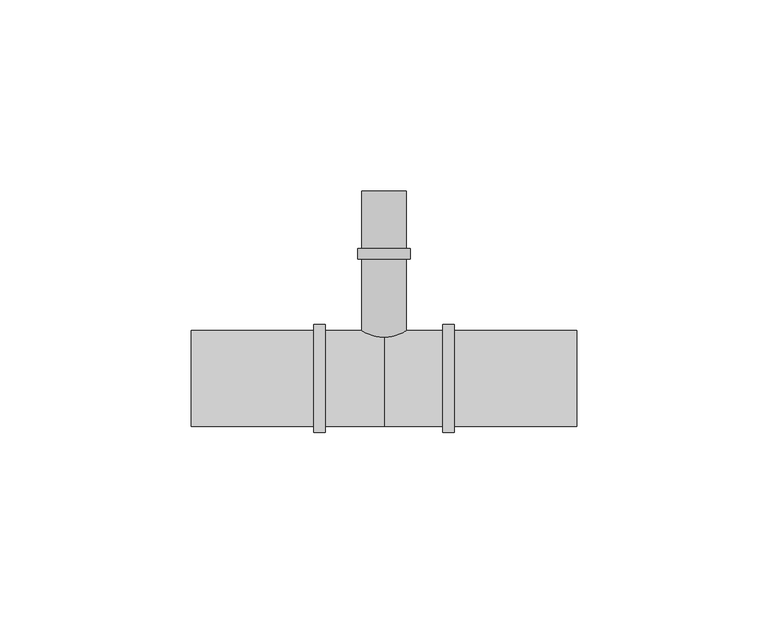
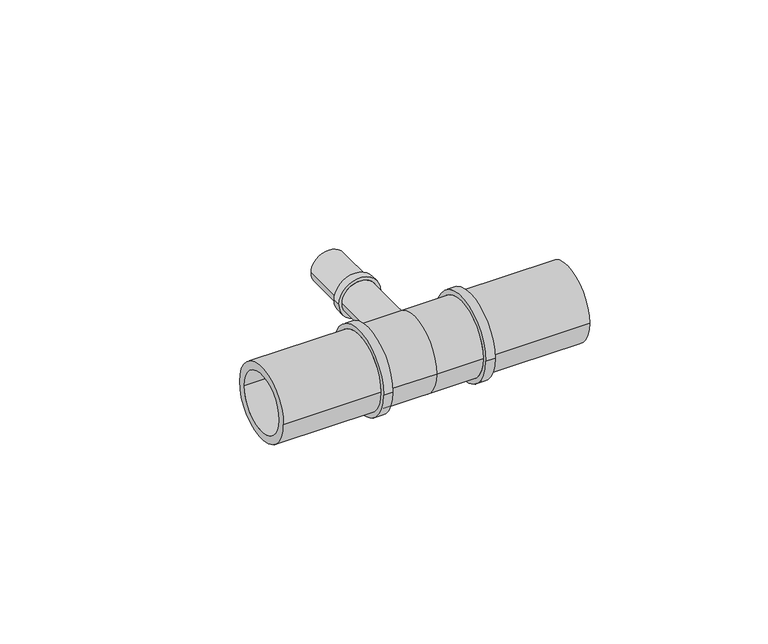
"""IFC4 building model written with IfcOpenShell, lengths in millimetres: pipe fitting geometry, FASTLOC_T-piece_LX : FSL T-Piece LX PL."""

from ifc_helpers import new_model, si_unit, frame, origin, place, context, project, spatial, polyline, circle_curve, source, transform, mapped, element, save
from ifc_brep_helpers import plane_surface, cylinder_surface, revolved_surface, advanced_brep


def pipe_fitting_963efab6(model_context):
    return source(origin(), model_context, "Body", "AdvancedBrep", [
        advanced_brep(
        [(3.95, 48.9, 0.0), (-3.95, 48.9, 0.0), (-3.95, 0.0, 0.0), (3.95, 0.0, 0.0), (5.8, 0.0, 0.0), (-5.8, 0.0, 0.0), (-5.8, 31.19, 0.0), (5.8, 31.19, 0.0), (6.9, 31.19, 0.0), (-6.9, 31.19, 0.0), (-6.9, 33.9, 0.0), (6.9, 33.9, 0.0), (5.8, 33.9, 0.0), (-5.8, 33.9, 0.0), (-5.8, 48.9, 0.0), (5.8, 48.9, 0.0)],
        [
            (0, 1, circle_curve(frame((0.0, 48.9, 0.0), z_axis=(0.0, 1.0, 0.0), x_axis=(-1.0, 0.0, 0.0)), 3.95)),
            (1, 2),
            (2, 3, circle_curve(frame((0.0, 0.0, 0.0), z_axis=(0.0, -1.0, 0.0), x_axis=(-1.0, 0.0, 0.0)), 3.95)),
            (3, 0),
            (4, 5, circle_curve(frame((0.0, 0.0, 0.0), z_axis=(0.0, 1.0, 0.0), x_axis=(-1.0, 0.0, 0.0)), 5.8)),
            (5, 6),
            (6, 7, circle_curve(frame((0.0, 31.19, 0.0), z_axis=(0.0, -1.0, 0.0), x_axis=(-1.0, 0.0, 0.0)), 5.8)),
            (7, 4),
            (8, 9, circle_curve(frame((0.0, 31.19, 0.0), z_axis=(0.0, 1.0, 0.0), x_axis=(-1.0, 0.0, 0.0)), 6.9)),
            (9, 10),
            (10, 11, circle_curve(frame((0.0, 33.9, 0.0), z_axis=(0.0, -1.0, 0.0), x_axis=(-1.0, 0.0, 0.0)), 6.9)),
            (11, 8),
            (12, 13, circle_curve(frame((0.0, 33.9, 0.0), z_axis=(0.0, 1.0, 0.0), x_axis=(-1.0, 0.0, 0.0)), 5.8)),
            (13, 14),
            (14, 15, circle_curve(frame((0.0, 48.9, 0.0), z_axis=(0.0, -1.0, 0.0), x_axis=(-1.0, 0.0, 0.0)), 5.8)),
            (15, 12),
            (1, 0, circle_curve(frame((0.0, 48.9, 0.0), z_axis=(0.0, 1.0, 0.0), x_axis=(1.0, 0.0, 0.0)), 3.95)),
            (3, 2, circle_curve(frame((0.0, 0.0, 0.0), z_axis=(0.0, -1.0, 0.0), x_axis=(1.0, 0.0, 0.0)), 3.95)),
            (4, 5, circle_curve(frame((0.0, 0.0, 0.0), z_axis=(0.0, -1.0, 0.0), x_axis=(1.0, 0.0, 0.0)), 5.8)),
            (7, 6, circle_curve(frame((0.0, 31.19, 0.0), z_axis=(0.0, -1.0, 0.0), x_axis=(1.0, 0.0, 0.0)), 5.8)),
            (8, 9, circle_curve(frame((0.0, 31.19, 0.0), z_axis=(0.0, -1.0, 0.0), x_axis=(1.0, 0.0, 0.0)), 6.9)),
            (11, 10, circle_curve(frame((0.0, 33.9, 0.0), z_axis=(0.0, -1.0, 0.0), x_axis=(1.0, 0.0, 0.0)), 6.9)),
            (12, 13, circle_curve(frame((0.0, 33.9, 0.0), z_axis=(0.0, -1.0, 0.0), x_axis=(1.0, 0.0, 0.0)), 5.8)),
            (15, 14, circle_curve(frame((0.0, 48.9, 0.0), z_axis=(0.0, -1.0, 0.0), x_axis=(1.0, 0.0, 0.0)), 5.8)),
        ],
        [
            revolved_surface(polyline([(-3.95, 0.0, 0.0), (-3.95, 48.9, 0.0)]), (0.0, 0.0, 0.0), (0.0, -1.0, 0.0)),
            cylinder_surface(frame((0.0, 0.0, 0.0), z_axis=(0.0, -1.0, 0.0), x_axis=(-1.0, 0.0, 0.0)), 5.8),
            cylinder_surface(frame((0.0, 0.0, 0.0), z_axis=(0.0, -1.0, 0.0), x_axis=(-1.0, 0.0, 0.0)), 6.9),
            revolved_surface(polyline([(3.95, 0.0, 0.0), (3.95, 48.9, 0.0)]), (0.0, 0.0, 0.0), (0.0, -1.0, 0.0)),
            plane_surface(frame((0.0, 0.0, 0.0), z_axis=(0.0, -1.0, 0.0), x_axis=(1.0, 0.0, 0.0))),
            cylinder_surface(frame((0.0, 0.0, 0.0), z_axis=(0.0, -1.0, 0.0), x_axis=(1.0, 0.0, 0.0)), 5.8),
            plane_surface(frame((0.0, 31.19, 0.0), z_axis=(0.0, -1.0, 0.0), x_axis=(1.0, 0.0, 0.0))),
            cylinder_surface(frame((0.0, 0.0, 0.0), z_axis=(0.0, -1.0, 0.0), x_axis=(1.0, 0.0, 0.0)), 6.9),
            plane_surface(frame((0.0, 33.9, 0.0), z_axis=(0.0, 1.0, 0.0), x_axis=(1.0, 0.0, 0.0))),
            plane_surface(frame((0.0, 48.9, 0.0), z_axis=(0.0, 1.0, 0.0), x_axis=(1.0, 0.0, 0.0))),
        ],
        [
            (0, [[1, 2, 3, 4]]),
            (1, [[5, 6, 7, 8]]),
            (2, [[9, 10, 11, 12]]),
            (1, [[13, 14, 15, 16]]),
            (3, [[17, -4, 18, -2]]),
            (4, [[19, -5], [-18, -3]]),
            (5, [[-19, -8, 20, -6]]),
            (6, [[21, -9], [-20, -7]]),
            (7, [[-21, -12, 22, -10]]),
            (8, [[-22, -11], [23, -13]]),
            (5, [[-23, -16, 24, -14]]),
            (9, [[-24, -15], [-17, -1]]),
        ],
    ),
        advanced_brep(
        [(0.0, 12.5, 0.0), (0.0, -12.5, 0.0), (-15.3, -12.5, 0.0), (-15.3, 12.5, 0.0), (15.3, 12.5, 0.0), (15.3, -12.5, 0.0), (18.3, 14.1, 0.0), (18.3, -14.1, 0.0), (15.3, -14.1, 0.0), (15.3, 14.1, 0.0), (50.3, 12.5, 0.0), (50.3, -12.5, 0.0), (18.3, -12.5, 0.0), (18.3, 12.5, 0.0), (-18.3, 12.5, 0.0), (-18.3, -12.5, 0.0), (-50.3, -12.5, 0.0), (-50.3, 12.5, 0.0), (-15.3, 14.1, 0.0), (-15.3, -14.1, 0.0), (-18.3, -14.1, 0.0), (-18.3, 14.1, 0.0), (50.3, -9.85, 0.0), (50.3, 9.85, 0.0), (-50.3, 9.85, 0.0), (-50.3, -9.85, 0.0), (0.0, 9.85, 0.0), (0.0, -9.85, 0.0)],
        [
            (0, 1, circle_curve(frame((0.0, 0.0, 0.0), z_axis=(-1.0, 0.0, 0.0), x_axis=(0.0, -1.0, 0.0)), 12.5)),
            (1, 2),
            (2, 3, circle_curve(frame((-15.3, 0.0, 0.0), z_axis=(1.0, 0.0, 0.0), x_axis=(0.0, -1.0, 0.0)), 12.5)),
            (3, 0),
            (4, 5, circle_curve(frame((15.3, 0.0, 0.0), z_axis=(-1.0, 0.0, 0.0), x_axis=(0.0, -1.0, 0.0)), 12.5)),
            (5, 1),
            (0, 4),
            (6, 7, circle_curve(frame((18.3, 0.0, 0.0), z_axis=(-1.0, 0.0, 0.0), x_axis=(0.0, -1.0, 0.0)), 14.1)),
            (7, 8),
            (8, 9, circle_curve(frame((15.3, 0.0, 0.0), z_axis=(1.0, 0.0, 0.0), x_axis=(0.0, -1.0, 0.0)), 14.1)),
            (9, 6),
            (10, 11, circle_curve(frame((50.3, 0.0, 0.0), z_axis=(-1.0, 0.0, 0.0), x_axis=(0.0, -1.0, 0.0)), 12.5)),
            (11, 12),
            (12, 13, circle_curve(frame((18.3, 0.0, 0.0), z_axis=(1.0, 0.0, 0.0), x_axis=(0.0, -1.0, 0.0)), 12.5)),
            (13, 10),
            (14, 15, circle_curve(frame((-18.3, 0.0, 0.0), z_axis=(-1.0, 0.0, 0.0), x_axis=(0.0, -1.0, 0.0)), 12.5)),
            (15, 16),
            (16, 17, circle_curve(frame((-50.3, 0.0, 0.0), z_axis=(1.0, 0.0, 0.0), x_axis=(0.0, -1.0, 0.0)), 12.5)),
            (17, 14),
            (18, 19, circle_curve(frame((-15.3, 0.0, 0.0), z_axis=(-1.0, 0.0, 0.0), x_axis=(0.0, -1.0, 0.0)), 14.1)),
            (19, 20),
            (20, 21, circle_curve(frame((-18.3, 0.0, 0.0), z_axis=(1.0, 0.0, 0.0), x_axis=(0.0, -1.0, 0.0)), 14.1)),
            (21, 18),
            (18, 19, circle_curve(frame((-15.3, 0.0, 0.0), z_axis=(1.0, 0.0, 0.0), x_axis=(0.0, 1.0, 0.0)), 14.1)),
            (2, 3, circle_curve(frame((-15.3, 0.0, 0.0), z_axis=(-1.0, 0.0, 0.0), x_axis=(0.0, 1.0, 0.0)), 12.5)),
            (1, 0, circle_curve(frame((0.0, 0.0, 0.0), z_axis=(-1.0, 0.0, 0.0), x_axis=(0.0, 1.0, 0.0)), 12.5)),
            (5, 4, circle_curve(frame((15.3, 0.0, 0.0), z_axis=(-1.0, 0.0, 0.0), x_axis=(0.0, 1.0, 0.0)), 12.5)),
            (8, 9, circle_curve(frame((15.3, 0.0, 0.0), z_axis=(-1.0, 0.0, 0.0), x_axis=(0.0, 1.0, 0.0)), 14.1)),
            (7, 6, circle_curve(frame((18.3, 0.0, 0.0), z_axis=(-1.0, 0.0, 0.0), x_axis=(0.0, 1.0, 0.0)), 14.1)),
            (12, 13, circle_curve(frame((18.3, 0.0, 0.0), z_axis=(-1.0, 0.0, 0.0), x_axis=(0.0, 1.0, 0.0)), 12.5)),
            (11, 10, circle_curve(frame((50.3, 0.0, 0.0), z_axis=(-1.0, 0.0, 0.0), x_axis=(0.0, 1.0, 0.0)), 12.5)),
            (22, 23, circle_curve(frame((50.3, 0.0, 0.0), z_axis=(-1.0, 0.0, 0.0), x_axis=(0.0, 1.0, 0.0)), 9.85)),
            (23, 22, circle_curve(frame((50.3, 0.0, 0.0), z_axis=(-1.0, 0.0, 0.0), x_axis=(0.0, -1.0, 0.0)), 9.85)),
            (16, 17, circle_curve(frame((-50.3, 0.0, 0.0), z_axis=(-1.0, 0.0, 0.0), x_axis=(0.0, 1.0, 0.0)), 12.5)),
            (24, 25, circle_curve(frame((-50.3, 0.0, 0.0), z_axis=(1.0, 0.0, 0.0), x_axis=(0.0, 1.0, 0.0)), 9.85)),
            (25, 24, circle_curve(frame((-50.3, 0.0, 0.0), z_axis=(1.0, 0.0, 0.0), x_axis=(0.0, -1.0, 0.0)), 9.85)),
            (15, 14, circle_curve(frame((-18.3, 0.0, 0.0), z_axis=(-1.0, 0.0, 0.0), x_axis=(0.0, 1.0, 0.0)), 12.5)),
            (20, 21, circle_curve(frame((-18.3, 0.0, 0.0), z_axis=(-1.0, 0.0, 0.0), x_axis=(0.0, 1.0, 0.0)), 14.1)),
            (26, 27, circle_curve(frame((0.0, 0.0, 0.0), z_axis=(-1.0, 0.0, 0.0), x_axis=(0.0, -1.0, 0.0)), 9.85)),
            (27, 22),
            (23, 26),
            (25, 27),
            (26, 24),
            (27, 26, circle_curve(frame((0.0, 0.0, 0.0), z_axis=(-1.0, 0.0, 0.0), x_axis=(0.0, 1.0, 0.0)), 9.85)),
        ],
        [
            cylinder_surface(frame((0.0, 0.0, 0.0), z_axis=(1.0, 0.0, 0.0), x_axis=(0.0, -1.0, 0.0)), 12.5),
            cylinder_surface(frame((0.0, 0.0, 0.0), z_axis=(1.0, 0.0, 0.0), x_axis=(0.0, -1.0, 0.0)), 14.1),
            plane_surface(frame((-15.3, 0.0, 0.0), z_axis=(1.0, 0.0, 0.0), x_axis=(0.0, 1.0, 0.0))),
            cylinder_surface(frame((0.0, 0.0, 0.0), z_axis=(1.0, 0.0, 0.0), x_axis=(0.0, 1.0, 0.0)), 12.5),
            plane_surface(frame((15.3, 0.0, 0.0), z_axis=(-1.0, 0.0, 0.0), x_axis=(0.0, 1.0, 0.0))),
            cylinder_surface(frame((0.0, 0.0, 0.0), z_axis=(1.0, 0.0, 0.0), x_axis=(0.0, 1.0, 0.0)), 14.1),
            plane_surface(frame((18.3, 0.0, 0.0), z_axis=(1.0, 0.0, 0.0), x_axis=(0.0, 1.0, 0.0))),
            plane_surface(frame((50.3, 0.0, 0.0), z_axis=(1.0, 0.0, 0.0), x_axis=(0.0, 1.0, 0.0))),
            plane_surface(frame((-50.3, 0.0, 0.0), z_axis=(-1.0, 0.0, 0.0), x_axis=(0.0, 1.0, 0.0))),
            plane_surface(frame((-18.3, 0.0, 0.0), z_axis=(-1.0, 0.0, 0.0), x_axis=(0.0, 1.0, 0.0))),
            revolved_surface(polyline([(50.3, -9.85, 0.0), (0.0, -9.85, 0.0)]), (0.0, 0.0, 0.0), (1.0, 0.0, 0.0)),
            revolved_surface(polyline([(0.0, -9.85, 0.0), (-50.3, -9.85, 0.0)]), (0.0, 0.0, 0.0), (1.0, 0.0, 0.0)),
            revolved_surface(polyline([(50.3, 9.85, 0.0), (0.0, 9.85, 0.0)]), (0.0, 0.0, 0.0), (1.0, 0.0, 0.0)),
            revolved_surface(polyline([(0.0, 9.85, 0.0), (-50.3, 9.85, 0.0)]), (0.0, 0.0, 0.0), (1.0, 0.0, 0.0)),
        ],
        [
            (0, [[1, 2, 3, 4]]),
            (0, [[5, 6, -1, 7]]),
            (1, [[8, 9, 10, 11]]),
            (0, [[12, 13, 14, 15]]),
            (0, [[16, 17, 18, 19]]),
            (1, [[20, 21, 22, 23]]),
            (2, [[24, -20], [25, -3]]),
            (3, [[26, -4, -25, -2]]),
            (3, [[27, -7, -26, -6]]),
            (4, [[28, -10], [-27, -5]]),
            (5, [[29, -11, -28, -9]]),
            (6, [[-29, -8], [30, -14]]),
            (3, [[31, -15, -30, -13]]),
            (7, [[-31, -12], [32, 33]]),
            (8, [[34, -18], [35, 36]]),
            (3, [[37, -19, -34, -17]]),
            (9, [[38, -22], [-37, -16]]),
            (5, [[-24, -23, -38, -21]]),
            (10, [[39, 40, -33, 41]]),
            (11, [[-36, 42, -39, 43]]),
            (12, [[44, -41, -32, -40]]),
            (13, [[-35, -43, -44, -42]]),
        ],
    ),
    ])


if __name__ == "__main__":
    model = new_model("IFC4")
    model_context = context("Model", 3, world=origin())
    ifc_project = project(units=[si_unit("LENGTHUNIT", "METRE", prefix="MILLI")], contexts=[model_context])
    site = spatial("IfcSite", under=ifc_project)
    building = spatial("IfcBuilding", under=site)
    placement = place(None, origin())
    pipe_fitting_shape = pipe_fitting_963efab6(model_context)
    element("IfcPipeFitting", 1, ObjectType="FASTLOC_T-piece_LX : FSL T-Piece LX PL", at=placement, inside=building, context=model_context, shape_type="MappedRepresentation", body=[
        mapped(pipe_fitting_shape, transform((0.0, 0.0, 0.0), x_axis=(1.0, 0.0, 0.0), y_axis=(0.0, 1.0, 0.0), z_axis=(0.0, 0.0, 1.0))),
    ])
    save(model, "model.ifc")
